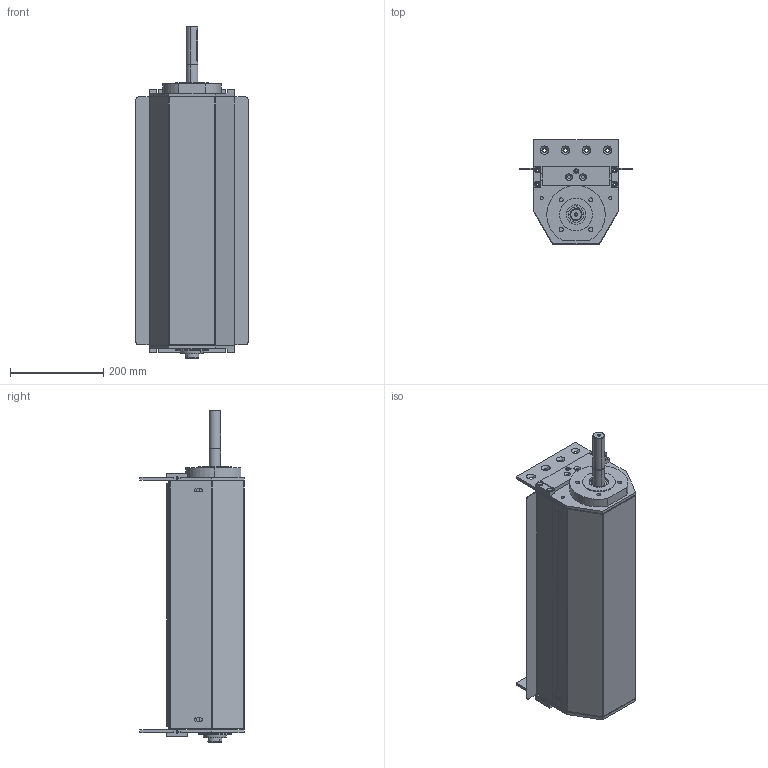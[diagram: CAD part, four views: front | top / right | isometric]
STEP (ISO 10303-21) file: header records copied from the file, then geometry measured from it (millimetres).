
FILE_DESCRIPTION (( 'STEP AP203' ), '1' );
FILE_NAME ('084.095.KCS.49.500.STEP', '2016-01-11T16:22:19', ( '' ), ( '' ), 'SwSTEP 2.0', 'SolidWorks 2016', '' );
FILE_SCHEMA (( 'CONFIG_CONTROL_DESIGN' ));
Length unit declared in the file: millimetre
Products named in the file (1): 084.095.KCS.49.500
Bounding box: 240 x 223 x 711 mm (x, y, z)
Volume: 4064224.3 mm3; surface area: 1961460.9 mm2
Topology: 35 solids, 35 shells, 1115 faces, 2778 edges, 1788 vertices
Faces by surface type: plane 515, cylinder 389, cone 133, torus 68, sphere 10
Entity records: 33680 total; most frequent: DIRECTION 6115, CARTESIAN_POINT 5803, ORIENTED_EDGE 5510, EDGE_CURVE 2755, AXIS2_PLACEMENT_3D 2265, VERTEX_POINT 1781, VECTOR 1585, LINE 1585
